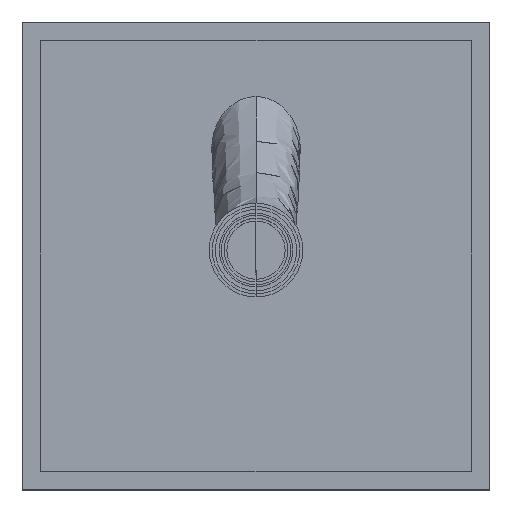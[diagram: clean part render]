
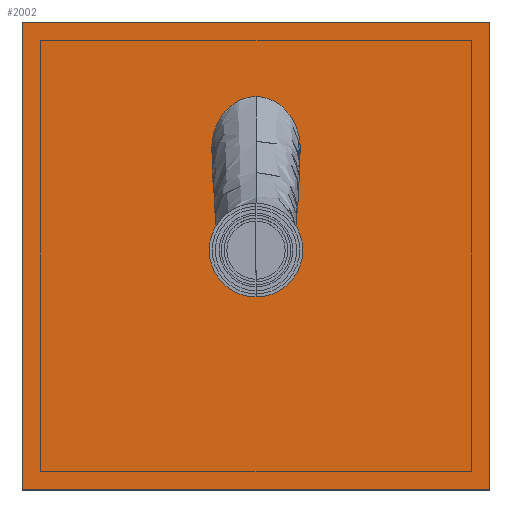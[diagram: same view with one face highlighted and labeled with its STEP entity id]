
A CAD part, top view. The second image highlights one B-rep face of the part: STEP entity #2002.
In plain terms, the highlighted planar face has unit normal (0, 0, 1).
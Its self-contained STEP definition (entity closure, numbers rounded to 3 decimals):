
#21=FACE_BOUND('',#410,.T.);
#56=B_SPLINE_CURVE_WITH_KNOTS('',3,(#4232,#4233,#4234,#4235,#4236,#4237,
#4238,#4239,#4240,#4241,#4242,#4243,#4244,#4245,#4246,#4247,#4248,#4249,
#4250,#4251,#4252,#4253),.UNSPECIFIED.,.F.,.F.,(4,2,2,2,2,2,2,2,2,2,4),
(0.,4.167,8.382,17.115,28.046,
41.16,55.12,67.424,77.48,82.334,
87.137),.UNSPECIFIED.);
#59=B_SPLINE_CURVE_WITH_KNOTS('',3,(#4600,#4601,#4602,#4603,#4604,#4605,
#4606,#4607,#4608,#4609,#4610,#4611,#4612,#4613,#4614,#4615,#4616,#4617,
#4618,#4619,#4620,#4621),.UNSPECIFIED.,.F.,.F.,(4,2,2,2,2,2,2,2,2,2,4),
(0.,4.219,8.483,17.315,28.123,
40.385,51.904,61.506,69.177,72.879,
76.539),.UNSPECIFIED.);
#130=PLANE('',#2261);
#269=FACE_OUTER_BOUND('',#409,.T.);
#409=EDGE_LOOP('',(#1800,#1801,#1802,#1803));
#410=EDGE_LOOP('',(#1804,#1805));
#542=LINE('',#4642,#681);
#545=LINE('',#4647,#684);
#547=LINE('',#4651,#686);
#549=LINE('',#4654,#688);
#681=VECTOR('',#2900,304.8);
#684=VECTOR('',#2905,304.8);
#686=VECTOR('',#2909,304.8);
#688=VECTOR('',#2913,304.8);
#947=VERTEX_POINT('',#4230);
#948=VERTEX_POINT('',#4231);
#953=VERTEX_POINT('',#4640);
#954=VERTEX_POINT('',#4641);
#955=VERTEX_POINT('',#4646);
#956=VERTEX_POINT('',#4650);
#1220=EDGE_CURVE('',#947,#948,#56,.T.);
#1223=EDGE_CURVE('',#948,#947,#59,.T.);
#1232=EDGE_CURVE('',#953,#954,#542,.T.);
#1235=EDGE_CURVE('',#955,#953,#545,.T.);
#1237=EDGE_CURVE('',#956,#955,#547,.T.);
#1239=EDGE_CURVE('',#954,#956,#549,.T.);
#1800=ORIENTED_EDGE('',*,*,#1239,.T.);
#1801=ORIENTED_EDGE('',*,*,#1237,.T.);
#1802=ORIENTED_EDGE('',*,*,#1235,.T.);
#1803=ORIENTED_EDGE('',*,*,#1232,.T.);
#1804=ORIENTED_EDGE('',*,*,#1223,.T.);
#1805=ORIENTED_EDGE('',*,*,#1220,.T.);
#2002=ADVANCED_FACE('',(#269,#21),#130,.T.);
#2261=AXIS2_PLACEMENT_3D('',#4655,#2914,#2915);
#2900=DIRECTION('',(0.,1.,0.));
#2905=DIRECTION('',(1.,0.,0.));
#2909=DIRECTION('',(0.,-1.,0.));
#2913=DIRECTION('',(-1.,0.,0.));
#2914=DIRECTION('center_axis',(0.,0.,1.));
#2915=DIRECTION('ref_axis',(-1.,0.,0.));
#4230=CARTESIAN_POINT('',(0.,85.108,27.));
#4231=CARTESIAN_POINT('',(0.,29.841,27.));
#4232=CARTESIAN_POINT('Ctrl Pts',(0.,85.108,
27.));
#4233=CARTESIAN_POINT('Ctrl Pts',(1.389,85.108,27.));
#4234=CARTESIAN_POINT('Ctrl Pts',(2.774,84.964,27.));
#4235=CARTESIAN_POINT('Ctrl Pts',(5.509,84.393,27.));
#4236=CARTESIAN_POINT('Ctrl Pts',(6.849,83.965,27.));
#4237=CARTESIAN_POINT('Ctrl Pts',(10.806,82.26,27.));
#4238=CARTESIAN_POINT('Ctrl Pts',(13.207,80.586,27.));
#4239=CARTESIAN_POINT('Ctrl Pts',(17.855,75.969,27.));
#4240=CARTESIAN_POINT('Ctrl Pts',(19.867,72.858,27.));
#4241=CARTESIAN_POINT('Ctrl Pts',(22.943,65.458,27.));
#4242=CARTESIAN_POINT('Ctrl Pts',(23.646,61.268,27.));
#4243=CARTESIAN_POINT('Ctrl Pts',(23.665,53.361,27.));
#4244=CARTESIAN_POINT('Ctrl Pts',(22.894,49.242,27.));
#4245=CARTESIAN_POINT('Ctrl Pts',(19.974,42.131,27.));
#4246=CARTESIAN_POINT('Ctrl Pts',(17.996,39.049,27.));
#4247=CARTESIAN_POINT('Ctrl Pts',(13.369,34.416,27.));
#4248=CARTESIAN_POINT('Ctrl Pts',(10.939,32.719,27.));
#4249=CARTESIAN_POINT('Ctrl Pts',(6.934,30.995,27.));
#4250=CARTESIAN_POINT('Ctrl Pts',(5.576,30.563,27.));
#4251=CARTESIAN_POINT('Ctrl Pts',(2.807,29.986,27.));
#4252=CARTESIAN_POINT('Ctrl Pts',(1.406,29.841,27.));
#4253=CARTESIAN_POINT('Ctrl Pts',(0.,29.841,
27.));
#4600=CARTESIAN_POINT('Ctrl Pts',(0.,29.841,
27.));
#4601=CARTESIAN_POINT('Ctrl Pts',(-1.406,29.841,27.));
#4602=CARTESIAN_POINT('Ctrl Pts',(-2.807,29.986,27.));
#4603=CARTESIAN_POINT('Ctrl Pts',(-5.576,30.563,27.));
#4604=CARTESIAN_POINT('Ctrl Pts',(-6.934,30.995,27.));
#4605=CARTESIAN_POINT('Ctrl Pts',(-10.939,32.719,27.));
#4606=CARTESIAN_POINT('Ctrl Pts',(-13.369,34.416,27.));
#4607=CARTESIAN_POINT('Ctrl Pts',(-17.996,39.049,27.));
#4608=CARTESIAN_POINT('Ctrl Pts',(-19.974,42.131,27.));
#4609=CARTESIAN_POINT('Ctrl Pts',(-22.894,49.242,27.));
#4610=CARTESIAN_POINT('Ctrl Pts',(-23.665,53.361,27.));
#4611=CARTESIAN_POINT('Ctrl Pts',(-23.646,61.268,27.));
#4612=CARTESIAN_POINT('Ctrl Pts',(-22.943,65.458,27.));
#4613=CARTESIAN_POINT('Ctrl Pts',(-19.867,72.858,27.));
#4614=CARTESIAN_POINT('Ctrl Pts',(-17.855,75.969,27.));
#4615=CARTESIAN_POINT('Ctrl Pts',(-13.207,80.586,27.));
#4616=CARTESIAN_POINT('Ctrl Pts',(-10.806,82.26,27.));
#4617=CARTESIAN_POINT('Ctrl Pts',(-6.849,83.965,27.));
#4618=CARTESIAN_POINT('Ctrl Pts',(-5.509,84.393,27.));
#4619=CARTESIAN_POINT('Ctrl Pts',(-2.774,84.964,27.));
#4620=CARTESIAN_POINT('Ctrl Pts',(-1.389,85.108,27.));
#4621=CARTESIAN_POINT('Ctrl Pts',(0.,85.108,
27.));
#4640=CARTESIAN_POINT('',(125.,-125.,27.));
#4641=CARTESIAN_POINT('',(125.,125.,27.));
#4642=CARTESIAN_POINT('',(125.,-125.,27.));
#4646=CARTESIAN_POINT('',(-125.,-125.,27.));
#4647=CARTESIAN_POINT('',(-125.,-125.,27.));
#4650=CARTESIAN_POINT('',(-125.,125.,27.));
#4651=CARTESIAN_POINT('',(-125.,125.,27.));
#4654=CARTESIAN_POINT('',(125.,125.,27.));
#4655=CARTESIAN_POINT('Origin',(-125.,125.,27.));
